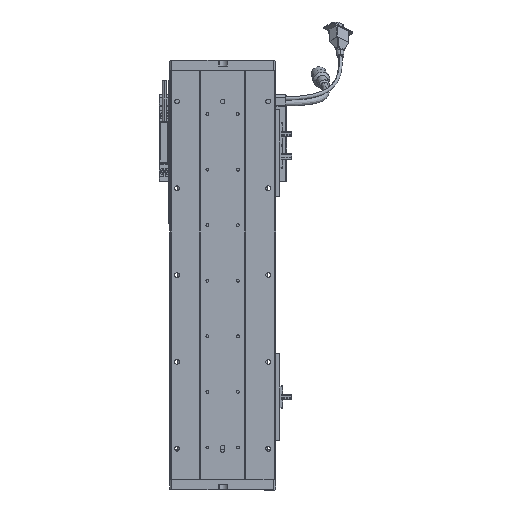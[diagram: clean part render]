
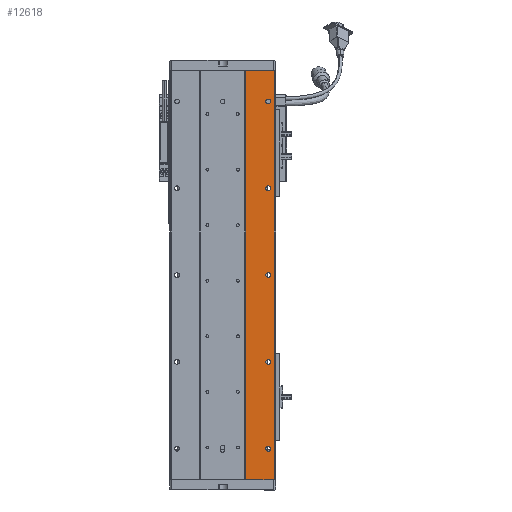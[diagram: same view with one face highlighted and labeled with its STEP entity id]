
A CAD part, front view. The second image highlights one B-rep face of the part: STEP entity #12618.
In plain terms, the highlighted planar face has unit normal (0, -1, 0).
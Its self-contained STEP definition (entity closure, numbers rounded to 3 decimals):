
#241 = DIRECTION ( 'NONE',  ( 0., 1., 0. ) ) ;
#1328 = EDGE_CURVE ( 'NONE', #5437, #67834, #18260, .T. ) ;
#1513 = FACE_OUTER_BOUND ( 'NONE', #12759, .T. ) ;
#2915 = DIRECTION ( 'NONE',  ( 0., 1., 0. ) ) ;
#3009 = DIRECTION ( 'NONE',  ( 0., 0., -1. ) ) ;
#3184 = FACE_BOUND ( 'NONE', #33829, .T. ) ;
#4818 = ORIENTED_EDGE ( 'NONE', *, *, #33124, .T. ) ;
#4856 = FACE_BOUND ( 'NONE', #38062, .T. ) ;
#4958 = DIRECTION ( 'NONE',  ( 0., 1., 0. ) ) ;
#5437 = VERTEX_POINT ( 'NONE', #10408 ) ;
#5486 = CARTESIAN_POINT ( 'NONE',  ( 214.532, 76.768, 471. ) ) ;
#5601 = VERTEX_POINT ( 'NONE', #54728 ) ;
#5793 = DIRECTION ( 'NONE',  ( 0., 1., 0. ) ) ;
#6407 = VERTEX_POINT ( 'NONE', #60911 ) ;
#6577 = CIRCLE ( 'NONE', #60783, 2.75 ) ;
#6739 = AXIS2_PLACEMENT_3D ( 'NONE', #59222, #241, #43120 ) ;
#7658 = DIRECTION ( 'NONE',  ( 0., 1., 0. ) ) ;
#7667 = CARTESIAN_POINT ( 'NONE',  ( 214.532, 76.768, 471. ) ) ;
#7920 = CARTESIAN_POINT ( 'NONE',  ( 207.625, 76.768, 138.25 ) ) ;
#8862 = CARTESIAN_POINT ( 'NONE',  ( 207.625, 76.768, 432.75 ) ) ;
#10408 = CARTESIAN_POINT ( 'NONE',  ( 207.625, 76.768, 132.75 ) ) ;
#10431 = AXIS2_PLACEMENT_3D ( 'NONE', #26823, #48944, #48270 ) ;
#11304 = EDGE_CURVE ( 'NONE', #68184, #26187, #6577, .T. ) ;
#12171 = CARTESIAN_POINT ( 'NONE',  ( 207.625, 76.768, 238.25 ) ) ;
#12618 = ADVANCED_FACE ( 'NONE', ( #15685, #43257, #4856, #46625, #3184, #1513 ), #32125, .F. ) ;
#12759 = EDGE_LOOP ( 'NONE', ( #41467, #48931, #53696, #55499 ) ) ;
#13317 = CARTESIAN_POINT ( 'NONE',  ( 214.532, 76.768, 0. ) ) ;
#13705 = CIRCLE ( 'NONE', #22786, 2.75 ) ;
#14078 = AXIS2_PLACEMENT_3D ( 'NONE', #23250, #61245, #65963 ) ;
#15671 = DIRECTION ( 'NONE',  ( 0., 1., 0. ) ) ;
#15685 = FACE_BOUND ( 'NONE', #38800, .T. ) ;
#16036 = DIRECTION ( 'NONE',  ( 0., 1., 0. ) ) ;
#16437 = VERTEX_POINT ( 'NONE', #12171 ) ;
#16751 = ORIENTED_EDGE ( 'NONE', *, *, #30861, .T. ) ;
#18260 = CIRCLE ( 'NONE', #55677, 2.75 ) ;
#18574 = AXIS2_PLACEMENT_3D ( 'NONE', #54545, #5793, #65058 ) ;
#20286 = EDGE_CURVE ( 'NONE', #6407, #57823, #29264, .T. ) ;
#20541 = DIRECTION ( 'NONE',  ( 0., 0., 1. ) ) ;
#21319 = DIRECTION ( 'NONE',  ( 0., 1., 0. ) ) ;
#22786 = AXIS2_PLACEMENT_3D ( 'NONE', #24766, #28470, #54843 ) ;
#22869 = CIRCLE ( 'NONE', #18574, 2.75 ) ;
#23250 = CARTESIAN_POINT ( 'NONE',  ( 207.625, 76.768, 435.5 ) ) ;
#24021 = DIRECTION ( 'NONE',  ( -1., 0., 0. ) ) ;
#24766 = CARTESIAN_POINT ( 'NONE',  ( 207.625, 76.768, 35.5 ) ) ;
#24839 = CARTESIAN_POINT ( 'NONE',  ( 207.625, 76.768, 232.75 ) ) ;
#25399 = VERTEX_POINT ( 'NONE', #24839 ) ;
#25503 = CARTESIAN_POINT ( 'NONE',  ( 207.625, 76.768, 435.5 ) ) ;
#26187 = VERTEX_POINT ( 'NONE', #36127 ) ;
#26823 = CARTESIAN_POINT ( 'NONE',  ( 207.625, 76.768, 235.5 ) ) ;
#26960 = DIRECTION ( 'NONE',  ( 0., 0., 1. ) ) ;
#27466 = CARTESIAN_POINT ( 'NONE',  ( 207.625, 76.768, 335.5 ) ) ;
#28409 = AXIS2_PLACEMENT_3D ( 'NONE', #34223, #7658, #61074 ) ;
#28470 = DIRECTION ( 'NONE',  ( 0., 1., 0. ) ) ;
#28854 = CARTESIAN_POINT ( 'NONE',  ( 181.625, 76.768, 0. ) ) ;
#29264 = CIRCLE ( 'NONE', #42364, 2.75 ) ;
#29376 = ORIENTED_EDGE ( 'NONE', *, *, #31208, .T. ) ;
#30242 = CIRCLE ( 'NONE', #10431, 2.75 ) ;
#30331 = ORIENTED_EDGE ( 'NONE', *, *, #68270, .T. ) ;
#30579 = VERTEX_POINT ( 'NONE', #5486 ) ;
#30861 = EDGE_CURVE ( 'NONE', #59841, #5601, #60497, .T. ) ;
#31208 = EDGE_CURVE ( 'NONE', #26187, #68184, #13705, .T. ) ;
#31669 = VERTEX_POINT ( 'NONE', #28854 ) ;
#32125 = PLANE ( 'NONE',  #6739 ) ;
#32784 = DIRECTION ( 'NONE',  ( 0., 0., -1. ) ) ;
#33124 = EDGE_CURVE ( 'NONE', #57823, #6407, #49335, .T. ) ;
#33829 = EDGE_LOOP ( 'NONE', ( #61458, #47124 ) ) ;
#34223 = CARTESIAN_POINT ( 'NONE',  ( 207.625, 76.768, 135.5 ) ) ;
#34928 = CARTESIAN_POINT ( 'NONE',  ( 0., 76.768, 0. ) ) ;
#35596 = LINE ( 'NONE', #58935, #57312 ) ;
#36127 = CARTESIAN_POINT ( 'NONE',  ( 207.625, 76.768, 38.25 ) ) ;
#38062 = EDGE_LOOP ( 'NONE', ( #29376, #54293 ) ) ;
#38620 = LINE ( 'NONE', #34928, #68724 ) ;
#38800 = EDGE_LOOP ( 'NONE', ( #30331, #16751 ) ) ;
#41467 = ORIENTED_EDGE ( 'NONE', *, *, #46587, .T. ) ;
#42065 = AXIS2_PLACEMENT_3D ( 'NONE', #67059, #2915, #50977 ) ;
#42364 = AXIS2_PLACEMENT_3D ( 'NONE', #27466, #16036, #51325 ) ;
#42574 = EDGE_CURVE ( 'NONE', #67834, #5437, #62992, .T. ) ;
#42695 = ORIENTED_EDGE ( 'NONE', *, *, #42574, .T. ) ;
#43120 = DIRECTION ( 'NONE',  ( 0., 0., 1. ) ) ;
#43257 = FACE_BOUND ( 'NONE', #56654, .T. ) ;
#43311 = CARTESIAN_POINT ( 'NONE',  ( 207.625, 76.768, 32.75 ) ) ;
#44894 = CARTESIAN_POINT ( 'NONE',  ( 181.625, 76.768, 471. ) ) ;
#44984 = EDGE_CURVE ( 'NONE', #30579, #59164, #53718, .T. ) ;
#46378 = CIRCLE ( 'NONE', #14078, 2.75 ) ;
#46587 = EDGE_CURVE ( 'NONE', #59164, #31669, #35596, .T. ) ;
#46625 = FACE_BOUND ( 'NONE', #69040, .T. ) ;
#47124 = ORIENTED_EDGE ( 'NONE', *, *, #49433, .T. ) ;
#47175 = DIRECTION ( 'NONE',  ( 0., 0., 1. ) ) ;
#47473 = VERTEX_POINT ( 'NONE', #13317 ) ;
#47719 = CARTESIAN_POINT ( 'NONE',  ( 207.625, 76.768, 35.5 ) ) ;
#48270 = DIRECTION ( 'NONE',  ( 0., 0., 1. ) ) ;
#48931 = ORIENTED_EDGE ( 'NONE', *, *, #49222, .F. ) ;
#48944 = DIRECTION ( 'NONE',  ( 0., 1., 0. ) ) ;
#49222 = EDGE_CURVE ( 'NONE', #47473, #31669, #38620, .T. ) ;
#49335 = CIRCLE ( 'NONE', #42065, 2.75 ) ;
#49433 = EDGE_CURVE ( 'NONE', #25399, #16437, #30242, .T. ) ;
#50478 = AXIS2_PLACEMENT_3D ( 'NONE', #25503, #15671, #20541 ) ;
#50977 = DIRECTION ( 'NONE',  ( 0., 0., 1. ) ) ;
#51201 = LINE ( 'NONE', #7667, #52065 ) ;
#51325 = DIRECTION ( 'NONE',  ( 0., 0., 1. ) ) ;
#51878 = DIRECTION ( 'NONE',  ( -1., 0., 0. ) ) ;
#52065 = VECTOR ( 'NONE', #3009, 1000. ) ;
#53696 = ORIENTED_EDGE ( 'NONE', *, *, #62172, .F. ) ;
#53718 = LINE ( 'NONE', #56975, #62867 ) ;
#54293 = ORIENTED_EDGE ( 'NONE', *, *, #11304, .T. ) ;
#54545 = CARTESIAN_POINT ( 'NONE',  ( 207.625, 76.768, 235.5 ) ) ;
#54728 = CARTESIAN_POINT ( 'NONE',  ( 207.625, 76.768, 438.25 ) ) ;
#54843 = DIRECTION ( 'NONE',  ( 0., 0., 1. ) ) ;
#55499 = ORIENTED_EDGE ( 'NONE', *, *, #44984, .T. ) ;
#55677 = AXIS2_PLACEMENT_3D ( 'NONE', #57885, #4958, #47175 ) ;
#56654 = EDGE_LOOP ( 'NONE', ( #4818, #62175 ) ) ;
#56975 = CARTESIAN_POINT ( 'NONE',  ( 84.971, 76.768, 471. ) ) ;
#57312 = VECTOR ( 'NONE', #32784, 1000. ) ;
#57363 = CARTESIAN_POINT ( 'NONE',  ( 207.625, 76.768, 338.25 ) ) ;
#57823 = VERTEX_POINT ( 'NONE', #57363 ) ;
#57885 = CARTESIAN_POINT ( 'NONE',  ( 207.625, 76.768, 135.5 ) ) ;
#58935 = CARTESIAN_POINT ( 'NONE',  ( 181.625, 76.768, 471. ) ) ;
#59164 = VERTEX_POINT ( 'NONE', #44894 ) ;
#59222 = CARTESIAN_POINT ( 'NONE',  ( 84.971, 76.768, 0. ) ) ;
#59841 = VERTEX_POINT ( 'NONE', #8862 ) ;
#60497 = CIRCLE ( 'NONE', #50478, 2.75 ) ;
#60783 = AXIS2_PLACEMENT_3D ( 'NONE', #47719, #21319, #26960 ) ;
#60911 = CARTESIAN_POINT ( 'NONE',  ( 207.625, 76.768, 332.75 ) ) ;
#61074 = DIRECTION ( 'NONE',  ( 0., 0., 1. ) ) ;
#61245 = DIRECTION ( 'NONE',  ( 0., 1., 0. ) ) ;
#61458 = ORIENTED_EDGE ( 'NONE', *, *, #69182, .T. ) ;
#62172 = EDGE_CURVE ( 'NONE', #30579, #47473, #51201, .T. ) ;
#62175 = ORIENTED_EDGE ( 'NONE', *, *, #20286, .T. ) ;
#62867 = VECTOR ( 'NONE', #51878, 1000. ) ;
#62992 = CIRCLE ( 'NONE', #28409, 2.75 ) ;
#65058 = DIRECTION ( 'NONE',  ( 0., 0., 1. ) ) ;
#65963 = DIRECTION ( 'NONE',  ( 0., 0., 1. ) ) ;
#66134 = ORIENTED_EDGE ( 'NONE', *, *, #1328, .T. ) ;
#67059 = CARTESIAN_POINT ( 'NONE',  ( 207.625, 76.768, 335.5 ) ) ;
#67834 = VERTEX_POINT ( 'NONE', #7920 ) ;
#68184 = VERTEX_POINT ( 'NONE', #43311 ) ;
#68270 = EDGE_CURVE ( 'NONE', #5601, #59841, #46378, .T. ) ;
#68724 = VECTOR ( 'NONE', #24021, 1000. ) ;
#69040 = EDGE_LOOP ( 'NONE', ( #42695, #66134 ) ) ;
#69182 = EDGE_CURVE ( 'NONE', #16437, #25399, #22869, .T. ) ;
